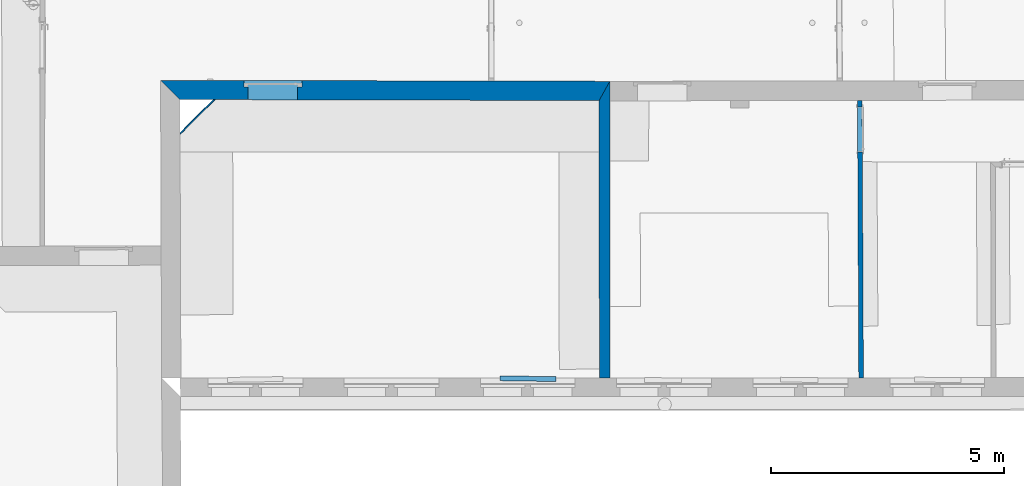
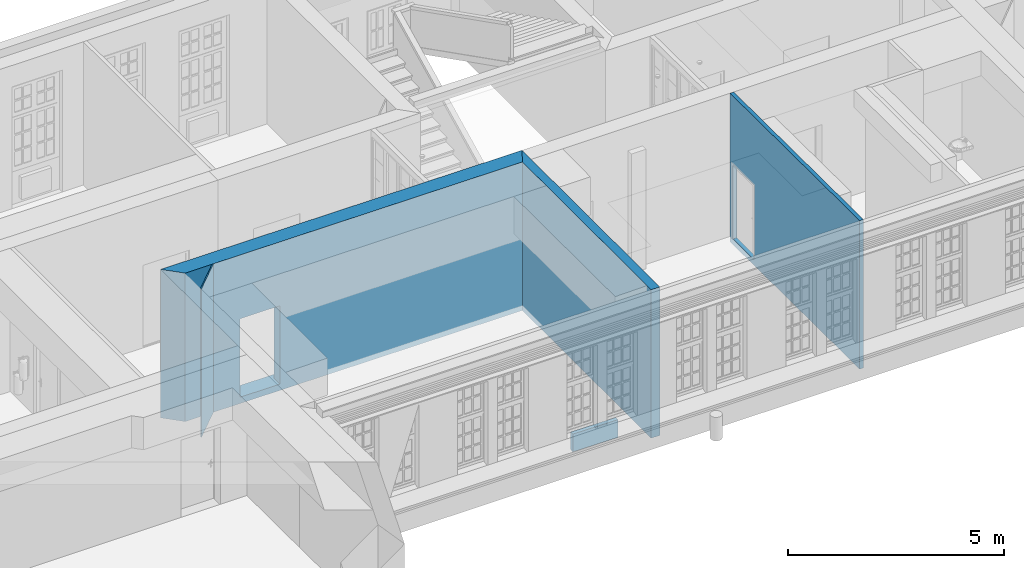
# One storey, part 12 of 90: 5 walls, 2 openings.
"""IFC2X3 building model written with IfcOpenShell, lengths in metres."""

from ifc_helpers import new_model, entity, si_unit, converted_unit, derived_unit, money_unit, direction, frame, origin_with_axes, origin_2d_with_axis, place, context, subcontext, project, spatial, polyline, rectangle, outline, extrude, material, layer, layer_set, layer_usage, type_object, element, save


model = new_model("IFC2X3")

# Units and contexts
model_context = context("Model", 3, precision=1e-05, world=origin_with_axes(), true_north=direction((0.0, 1.0)))
body_context = subcontext(model_context, "Body", "Model", "MODEL_VIEW")
ifc_project = project(units=[si_unit("LENGTHUNIT", "METRE"), si_unit("AREAUNIT", "SQUARE_METRE"), si_unit("VOLUMEUNIT", "CUBIC_METRE"), converted_unit("PLANEANGLEUNIT", "DEGREE", entity("IfcPlaneAngleMeasure", 0.0174532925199), si_unit("PLANEANGLEUNIT", "RADIAN"), dimensions=[0, 0, 0, 0, 0, 0, 0]), money_unit("EUR"), converted_unit("TIMEUNIT", "Year", entity("IfcTimeMeasure", 31556926.0), si_unit("TIMEUNIT", "SECOND"), dimensions=[0, 0, 1, 0, 0, 0, 0]), si_unit("MASSUNIT", "GRAM", prefix="KILO"), si_unit("THERMODYNAMICTEMPERATUREUNIT", "DEGREE_CELSIUS"), si_unit("LUMINOUSINTENSITYUNIT", "LUMEN"), si_unit("ENERGYUNIT", "JOULE", prefix="MEGA"), derived_unit("THERMALCONDUCTANCEUNIT", [(si_unit("POWERUNIT", "WATT"), 1), (si_unit("LENGTHUNIT", "METRE"), -1), (si_unit("THERMODYNAMICTEMPERATUREUNIT", "KELVIN"), -1)]), derived_unit("SPECIFICHEATCAPACITYUNIT", [(si_unit("ENERGYUNIT", "JOULE"), 1), (si_unit("MASSUNIT", "GRAM", prefix="KILO"), -1), (si_unit("THERMODYNAMICTEMPERATUREUNIT", "KELVIN"), -1)]), derived_unit("MASSDENSITYUNIT", [(si_unit("MASSUNIT", "GRAM", prefix="KILO"), 1), (si_unit("VOLUMEUNIT", "CUBIC_METRE"), -1)])], contexts=[model_context])

# Site, building, storey
site_placement = place(None, origin_with_axes())
site = spatial("IfcSite", under=ifc_project, at=site_placement, Name="Gelände", CompositionType="ELEMENT")
building_placement = place(site_placement, origin_with_axes())
building = spatial("IfcBuilding", under=site, at=building_placement, Name="Gebäude", CompositionType="ELEMENT")
storey_placement = place(building_placement, frame((0.0, 0.0, 3.7), z_axis=(0.0, 0.0, 1.0), x_axis=(1.0, 0.0, 0.0)))
storey = spatial("IfcBuildingStorey", under=building, at=storey_placement, Name="1.OBERGESCHOSS", CompositionType="ELEMENT", Elevation=3.7)

# Walls
ifc_material_1 = material(Name="05_ALLGEMEIN - TRAGENDE BAUTEILE")
ifc_layer_1 = layer(ifc_material_1, 0.23, ventilated="UNKNOWN")
ifc_layer_set_1 = layer_set([ifc_layer_1], Name="05_ALLGEMEIN - TRAGENDE BAUTEILE 0.23")
ifc_layer_usage_1 = layer_usage(ifc_layer_set_1, "AXIS2", "POSITIVE", -0.23)
wall_type_1 = type_object("IfcWallType", Name="05_ALLGEMEIN - TRAGENDE BAUTEILE 230", PredefinedType="ELEMENTEDWALL")
wall_1_placement = place(storey_placement, frame((-8.55838348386, 16.7686357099, -0.1), z_axis=(0.0, 0.0, 1.0), x_axis=(0.000670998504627, -0.99999977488, 0.0)))
element("IfcWallStandardCase", 1, at=wall_1_placement, inside=storey, type_object=wall_type_1, material=ifc_layer_usage_1, Name="Wand-042", ObjectType="ELEMENTEDWALL", context=body_context, shape_type="SweptSolid", body=[
    extrude(outline(polyline([(0.413936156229, -0.23), (6.37383207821, -0.23), (6.37396909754, 0.0), (0.0, 0.0), (0.413936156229, -0.23)])), origin_with_axes(), (0.0, 0.0, 1.0), 4.2),
])
ifc_material_2 = material(Name="43_Gipskarton")
ifc_layer_2 = layer(ifc_material_2, 0.03, ventilated="UNKNOWN")
ifc_layer_set_2 = layer_set([ifc_layer_2], Name="43_Gipskarton 0.03")
ifc_layer_usage_2 = layer_usage(ifc_layer_set_2, "AXIS2", "NEGATIVE", 0.03)
wall_type_2 = type_object("IfcWallType", Name="43_Gipskarton 30", PredefinedType="ELEMENTEDWALL")
wall_2_placement = place(storey_placement, frame((-17.7973566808, 15.6254753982, -0.1), z_axis=(0.0, 0.0, 1.0), x_axis=(0.710952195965, 0.703240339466, 0.0)))
element("IfcWallStandardCase", 2, at=wall_2_placement, inside=storey, type_object=wall_type_2, material=ifc_layer_usage_2, Name="Wand-040", ObjectType="ELEMENTEDWALL", context=body_context, shape_type="SweptSolid", body=[
    extrude(outline(polyline([(0.0, 0.0), (1.06361359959, 0.0), (1.0334232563, 0.03), (0.0294700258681, 0.03), (0.0, 0.0)])), origin_with_axes(), (0.0, 0.0, 1.0), 4.2),
])
ifc_material_3 = material(Name="01_ALLGEMEIN - BAUTEIL")
ifc_layer_3 = layer(ifc_material_3, 0.105, ventilated="UNKNOWN")
ifc_layer_set_3 = layer_set([ifc_layer_3], Name="01_ALLGEMEIN - BAUTEIL 0.105")
ifc_layer_usage_3 = layer_usage(ifc_layer_set_3, "AXIS2", "NEGATIVE", 0.0)
wall_type_3 = type_object("IfcWallType", Name="01_ALLGEMEIN - BAUTEIL 105", PredefinedType="ELEMENTEDWALL")
wall_3_placement = place(storey_placement, frame((-10.9156223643, 10.4363759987, 0.300904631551), z_axis=(0.0, 0.0, 1.0), x_axis=(0.999894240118, -0.0145433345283, 0.0)))
element("IfcWallStandardCase", 3, at=wall_3_placement, inside=storey, type_object=wall_type_3, material=ifc_layer_usage_3, Name="Wand-037", ObjectType="ELEMENTEDWALL", context=body_context, shape_type="SweptSolid", body=[
    extrude(outline(polyline([(0.0, -0.105), (1.1980319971, -0.105), (1.1980319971, 0.0), (0.0, 0.0), (0.0, -0.105)])), origin_with_axes(), (0.0, 0.0, 1.0), 0.501014),
])

# Wall, opening
ifc_layer_4 = layer(ifc_material_2, 0.1, ventilated="UNKNOWN")
ifc_layer_set_4 = layer_set([ifc_layer_4], Name="43_Gipskarton 0.1")
ifc_layer_usage_4 = layer_usage(ifc_layer_set_4, "AXIS2", "NEGATIVE", 0.1)
wall_type_4 = type_object("IfcWallType", Name="43_Gipskarton 100", PredefinedType="ELEMENTEDWALL")
wall_4_placement = place(storey_placement, frame((-3.10403830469, 9.99507823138, -0.1), z_axis=(0.0, 0.0, 1.0), x_axis=(-0.00468679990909, 0.999989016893, 0.0)))
wall_4 = element("IfcWallStandardCase", 4, at=wall_4_placement, inside=storey, type_object=wall_type_4, material=ifc_layer_usage_4, Name="Wand-040", ObjectType="ELEMENTEDWALL", context=body_context, shape_type="SweptSolid", body=[
    extrude(outline(polyline([(0.400004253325, 0.0), (6.3623468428, 0.0), (6.36261942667, 0.1), (0.40046541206, 0.1), (0.400004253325, 0.0)])), origin_with_axes(), (0.0, 0.0, 1.0), 4.2),
])
opening_1_placement = place(wall_4_placement, frame((5.7393449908, 0.0, 0.163418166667), z_axis=(0.0, 0.0, 1.0), x_axis=(1.0, 0.0, 0.0)))
element("IfcOpeningElement", 5, at=opening_1_placement, cuts=wall_4, Name="Tür-022", context=body_context, shape_type="SweptSolid", body=[
    extrude(rectangle(XDim=0.963064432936, YDim=2.097921, at=origin_2d_with_axis()), frame((0.0, -0.1, 1.0489605), z_axis=(0.0, -1.0, 0.0), x_axis=(1.0, 0.0, 0.0)), (0.0, 0.0, -1.0), 0.3),
])

ifc_layer_5 = layer(ifc_material_1, 0.414615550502, ventilated="UNKNOWN")
ifc_layer_set_5 = layer_set([ifc_layer_5], Name="05_ALLGEMEIN - TRAGENDE BAUTEILE 0.414616")
ifc_layer_usage_5 = layer_usage(ifc_layer_set_5, "AXIS2", "NEGATIVE", 0.0)
wall_type_5 = type_object("IfcWallType", Name="05_ALLGEMEIN - TRAGENDE BAUTEILE 415", PredefinedType="ELEMENTEDWALL")
wall_5_placement = place(storey_placement, frame((-17.8013832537, 16.7898094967, -0.1), z_axis=(0.0, 0.0, 1.0), x_axis=(0.999997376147, -0.00229078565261, 0.0)))
wall_5 = element("IfcWallStandardCase", 6, at=wall_5_placement, inside=storey, type_object=wall_type_5, material=ifc_layer_usage_5, Name="Wand-040", ObjectType="ELEMENTEDWALL", context=body_context, shape_type="SweptSolid", body=[
    extrude(outline(polyline([(0.00238366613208, -0.414615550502), (9.01425101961, -0.414615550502), (9.2430240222, 0.0), (-0.414622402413, 0.0), (0.00238366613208, -0.414615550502)])), origin_with_axes(), (0.0, 0.0, 1.0), 4.2),
])
opening_2_placement = place(wall_5_placement, frame((2.00209530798, 0.0, 0.177598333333), z_axis=(0.0, 0.0, 1.0), x_axis=(1.0, 0.0, 0.0)))
element("IfcOpeningElement", 7, at=opening_2_placement, cuts=wall_5, Name="Tür-022", context=body_context, shape_type="SweptSolid", body=[
    extrude(rectangle(XDim=1.06465358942, YDim=2.217251, at=origin_2d_with_axis()), frame((0.0, -0.14, 1.1086255), z_axis=(0.0, -1.0, 0.0), x_axis=(-1.0, 0.0, 0.0)), (0.0, 0.0, 1.0), 0.689231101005),
    extrude(rectangle(XDim=1.24465358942, YDim=2.307251, at=origin_2d_with_axis()), frame((0.0, -0.05, 1.1536255), z_axis=(0.0, 1.0, 0.0), x_axis=(-1.0, 0.0, 0.0)), (0.0, 0.0, -1.0), 0.09),
    extrude(rectangle(XDim=1.24465358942, YDim=2.307251, at=origin_2d_with_axis()), frame((0.0, -0.05, 1.1536255), z_axis=(0.0, 1.0, 0.0), x_axis=(-1.0, 0.0, 0.0)), (0.0, 0.0, 1.0), 0.464615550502),
])

save(model, "model.ifc")
